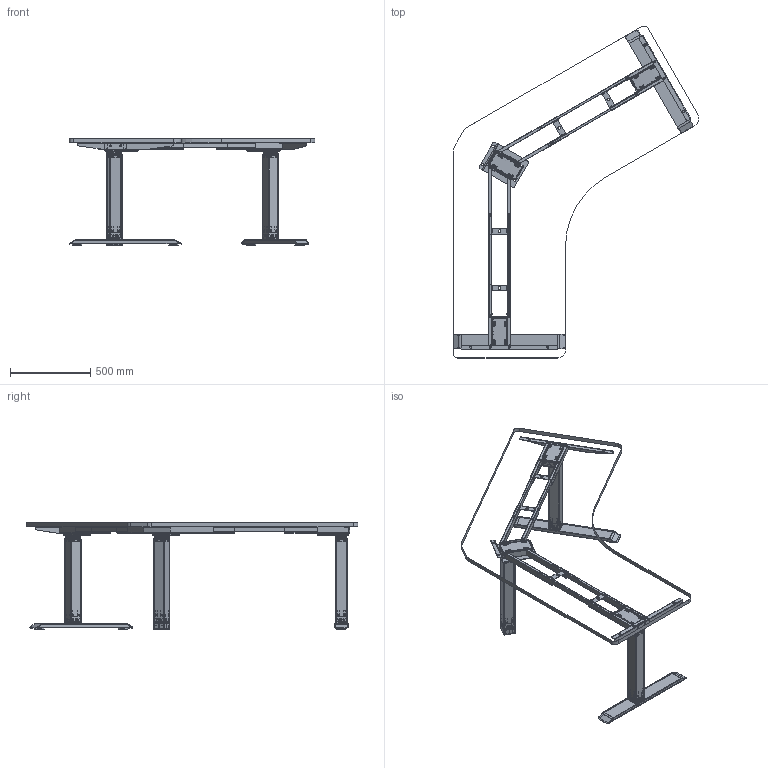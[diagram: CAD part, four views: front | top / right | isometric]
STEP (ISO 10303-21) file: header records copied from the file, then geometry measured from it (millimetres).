
FILE_DESCRIPTION(('CATIA V5 STEP Exchange'),'2;1');
FILE_NAME('F:\胡亚菊\工作\2023年设计申请单\李卿布\T081\桌架图\AK3YJYT-TYZF3-120-T081.stp','2023-02-24T02:16:13+00:00',('none'),('none'),'CATIA Version 5 Release 21 GA (IN-10)','CATIA V5 STEP AP203','none');
FILE_SCHEMA(('CONFIG_CONTROL_DESIGN'));
Products named in the file (12): AK3YJYT-TYZF3-120-T363; Product01-081; TYZF3-0016; AK-ZF3-SG01-558_65LS-V2; 1.15.046.X AK-TYZF3-XG01-526_75_下管(薄管隐藏式正装方管三节); 【受控】1.01.024.X AK-ZHHL01YJ-M400A-V4_YJYT款组合横梁1(前后锁螺丝净宽98)-V4; AK-DJ01B-700X-P; Product03-T363; 1.01.026.X AK-ZHHL01J-M420X_L; 1.01.027.X AK-ZHHL01J-M420X_R; AK-ZHHL02J-650B; Product02-081
Assembly tree (57 placements, depth 5):
  AK3YJYT-TYZF3-120-T363
    Product01-081
      TYZF3-0016
        AK-ZF3-SG01-558_65LS-V2
          #82
          #2979
          #11732
        #14645
        1.15.046.X AK-TYZF3-XG01-526_75_下管(薄管隐藏式正装方管三节)
          #18592
          #19979
        #21065
        #66366
        #74160
      【受控】1.01.024.X AK-ZHHL01YJ-M400A-V4_YJYT款组合横梁1(前后锁螺丝净宽98)-V4
        #81975
        #83121  x2
        #83521
        #85087
        #85944
        #87101
      AK-DJ01B-700X-P
        #88268
        #89099
      #92360  x2
      #96510
    Product03-T363
      TYZF3-0016
        AK-ZF3-SG01-558_65LS-V2
          #82
          #2979
          #11732
        #14645
        1.15.046.X AK-TYZF3-XG01-526_75_下管(薄管隐藏式正装方管三节)
          #18592
          #19979
        #21065
        #66366
        #74160
      #97933
      1.01.026.X AK-ZHHL01J-M420X_L
        #100935
        #101302
        #102118
        #83121  x2
        #85087
      1.01.027.X AK-ZHHL01J-M420X_R
        #102964
        #103780
        #104560  x2
        #85087
        #100935
      #105065
    AK-ZHHL02J-650B  x2
      #110035
    #110999
    Product02-081
      TYZF3-0016
        AK-ZF3-SG01-558_65LS-V2
          #82
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Bounding box: 1530.88 x 2066.06 x 665 mm (x, y, z)
Volume: 4694522.9 mm3; surface area: 5324133 mm2
Topology: 69 solids, 70 shells, 8549 faces, 23615 edges, 15217 vertices
Faces by surface type: plane 3503, cylinder 3329, cone 734, bspline 525, torus 350, sphere 100, extrusion 8
Entity records: 112934 total; most frequent: CARTESIAN_POINT 37885, ORIENTED_EDGE 17462, DIRECTION 11650, EDGE_CURVE 8745, VERTEX_POINT 5662, AXIS2_PLACEMENT_3D 4708, VECTOR 4508, LINE 4504
